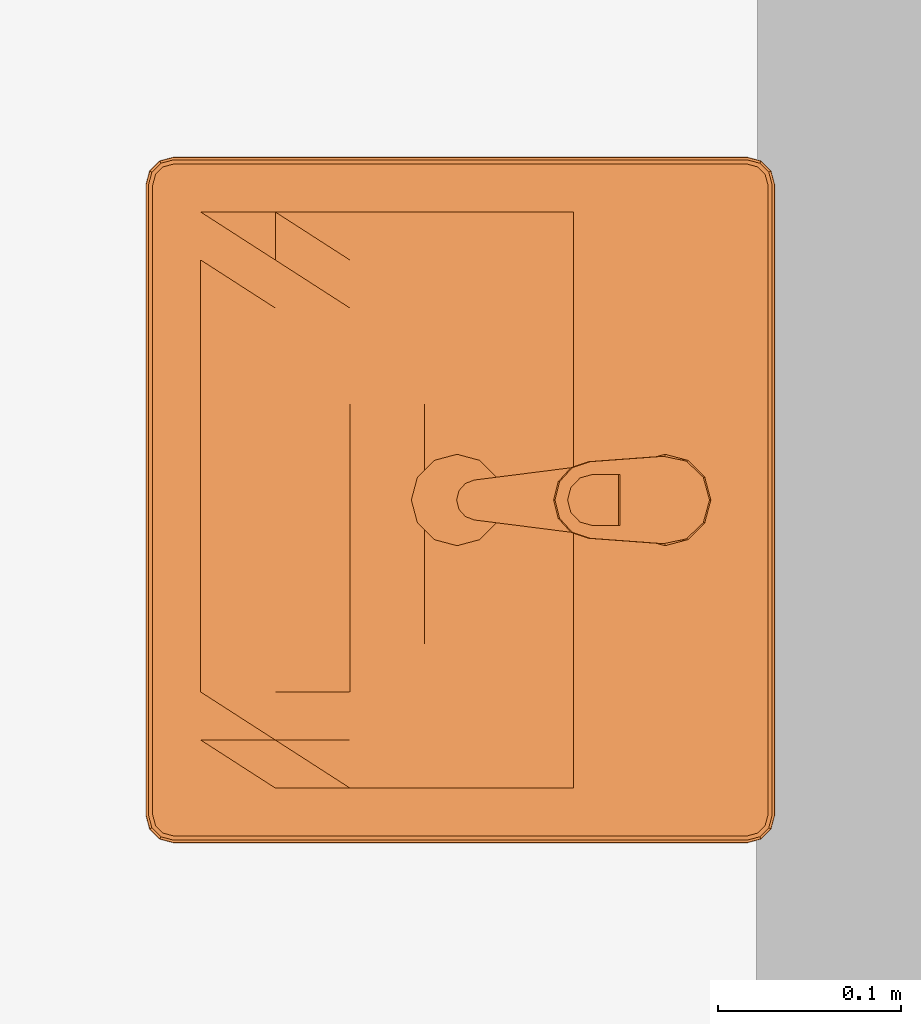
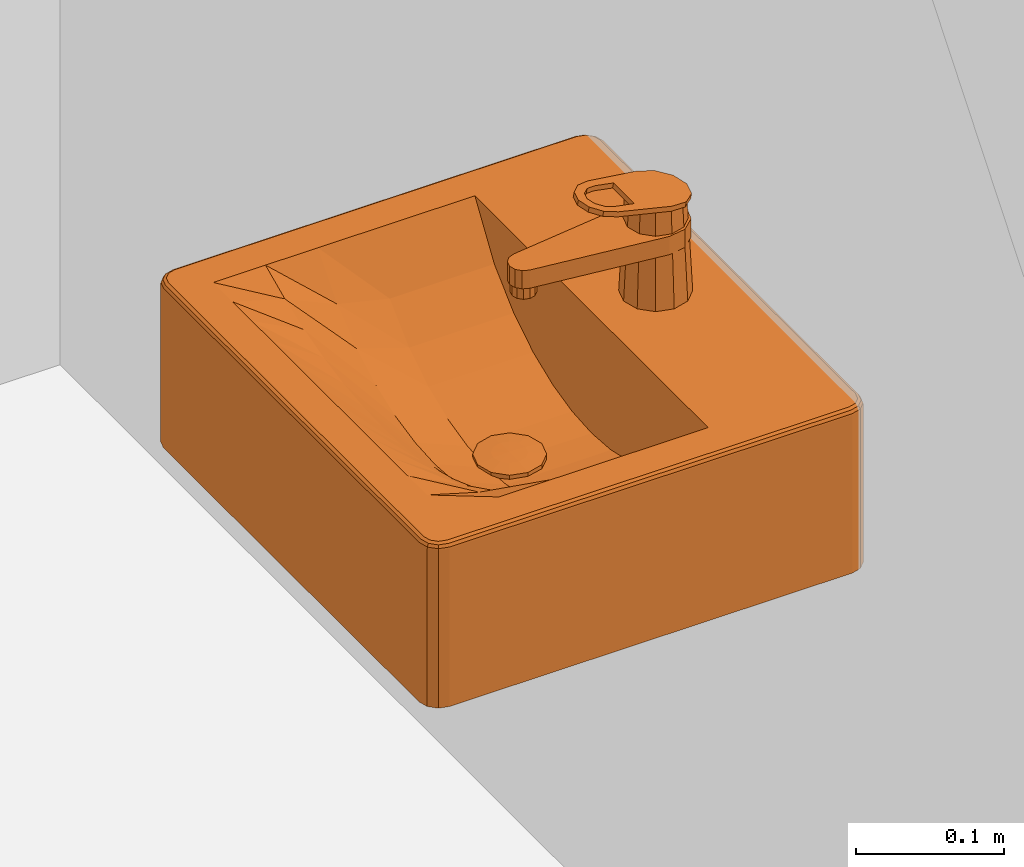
# One storey, part 189 of 196: 1 proxy.
"""IFC2X3 building model written with IfcOpenShell, lengths in metres."""

from ifc_helpers import new_model, entity, si_unit, converted_unit, derived_unit, money_unit, direction, frame, origin_with_axes, place, context, subcontext, project, spatial, open_shell, faceted_brep, surface_model, source, transform, mapped, type_object, element, save


model = new_model("IFC2X3")

# Units and contexts
model_context = context("Model", 3, precision=1e-05, world=origin_with_axes(), true_north=direction((0.0, 1.0)))
body_context = subcontext(model_context, "Body", "Model", "MODEL_VIEW")
ifc_project = project(units=[si_unit("LENGTHUNIT", "METRE"), si_unit("AREAUNIT", "SQUARE_METRE"), si_unit("VOLUMEUNIT", "CUBIC_METRE"), converted_unit("PLANEANGLEUNIT", "DEGREE", entity("IfcPlaneAngleMeasure", 0.0174532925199), si_unit("PLANEANGLEUNIT", "RADIAN"), dimensions=[0, 0, 0, 0, 0, 0, 0]), money_unit("EUR"), converted_unit("TIMEUNIT", "Year", entity("IfcTimeMeasure", 31556926.0), si_unit("TIMEUNIT", "SECOND"), dimensions=[0, 0, 1, 0, 0, 0, 0]), si_unit("MASSUNIT", "GRAM", prefix="KILO"), si_unit("THERMODYNAMICTEMPERATUREUNIT", "DEGREE_CELSIUS"), si_unit("LUMINOUSINTENSITYUNIT", "LUMEN"), si_unit("ENERGYUNIT", "JOULE", prefix="MEGA"), derived_unit("THERMALCONDUCTANCEUNIT", [(si_unit("POWERUNIT", "WATT"), 1), (si_unit("LENGTHUNIT", "METRE"), -1), (si_unit("THERMODYNAMICTEMPERATUREUNIT", "KELVIN"), -1)]), derived_unit("SPECIFICHEATCAPACITYUNIT", [(si_unit("ENERGYUNIT", "JOULE"), 1), (si_unit("MASSUNIT", "GRAM", prefix="KILO"), -1), (si_unit("THERMODYNAMICTEMPERATUREUNIT", "KELVIN"), -1)]), derived_unit("MASSDENSITYUNIT", [(si_unit("MASSUNIT", "GRAM", prefix="KILO"), 1), (si_unit("VOLUMEUNIT", "CUBIC_METRE"), -1)])], contexts=[model_context])

# Site, building, storey
site_placement = place(None, origin_with_axes())
site = spatial("IfcSite", under=ifc_project, at=site_placement, Name="Gelände", CompositionType="ELEMENT")
building_placement = place(site_placement, origin_with_axes())
building = spatial("IfcBuilding", under=site, at=building_placement, Name="Gebäude", CompositionType="ELEMENT")
storey_placement = place(building_placement, frame((0.0, 0.0, -3.0), z_axis=(0.0, 0.0, 1.0), x_axis=(1.0, 0.0, 0.0)))
storey = spatial("IfcBuildingStorey", under=building, at=storey_placement, Name="KELLERGESCHOSS", CompositionType="ELEMENT", Elevation=-3.0)

# Proxy
building_element_proxy_type = type_object("IfcBuildingElementProxyType", Name="Waschbecken 01 25", PredefinedType="NOTDEFINED")
shared_shape = source(origin_with_axes(), body_context, "Body", "SurfaceModel", [
    faceted_brep([(0.1725, -0.344011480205, 0.865), (-0.1725, -0.344011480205, 0.865), (-0.18, -0.342001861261, 0.865), (-0.185490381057, -0.336511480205, 0.865), (-0.1875, -0.329011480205, 0.865), (-0.1875, -0.015, 0.865), (-0.185490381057, -0.0075, 0.865), (-0.18, -0.00200961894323, 0.865), (-0.1725, 0.0, 0.865), (0.1725, 0.0, 0.865), (0.18, -0.00200961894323, 0.865), (0.185490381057, -0.0075, 0.865), (0.1875, -0.015, 0.865), (0.1875, -0.329011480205, 0.865), (0.185490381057, -0.336511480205, 0.865), (0.18, -0.342001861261, 0.865), (-0.1575, -0.314011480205, 0.865), (0.1575, -0.314011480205, 0.865), (0.1575, -0.11, 0.865), (-0.1575, -0.11, 0.865), (0.172499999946, -0.344011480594, 0.995), (-0.172499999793, -0.344011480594, 0.995), (-0.180000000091, -0.342001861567, 0.995), (-0.185490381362, -0.336511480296, 0.995), (-0.18750000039, -0.329011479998, 0.995), (-0.18750000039, -0.0150000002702, 0.995), (-0.185490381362, -0.00749999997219, 0.995), (-0.180000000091, -0.00200961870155, 0.995), (-0.172499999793, 3.25829641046e-10, 0.995), (0.172499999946, 3.25829641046e-10, 0.995), (0.180000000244, -0.00200961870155, 0.995), (0.185490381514, -0.00749999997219, 0.995), (0.18749999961, -0.0150000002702, 0.995), (0.18749999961, -0.329011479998, 0.995), (0.185490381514, -0.336511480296, 0.995), (0.180000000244, -0.342001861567, 0.995), (-0.1575, -0.314011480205, 0.999999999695), (0.1575, -0.314011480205, 0.999999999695), (0.1575, -0.11, 0.999999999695), (-0.1575, -0.11, 0.999999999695), (0.172477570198, -0.343841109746, 0.996294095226), (-0.172477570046, -0.343841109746, 0.996294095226), (-0.179911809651, -0.341849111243, 0.996294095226), (-0.185337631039, -0.336423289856, 0.996294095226), (-0.187329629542, -0.32898905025, 0.996294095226), (-0.187329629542, -0.0150224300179, 0.996294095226), (-0.185337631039, -0.0075881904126, 0.996294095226), (-0.179911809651, -0.00216236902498, 0.996294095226), (-0.172477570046, -0.000170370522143, 0.996294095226), (0.172477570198, -0.000170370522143, 0.996294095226), (0.179911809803, -0.00216236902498, 0.996294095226), (0.185337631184, -0.00758819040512, 0.996294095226), (0.187329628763, -0.0150224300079, 0.996294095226), (0.187329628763, -0.32898905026, 0.996294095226), (0.185337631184, -0.336423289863, 0.996294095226), (0.179911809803, -0.341849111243, 0.996294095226), (-0.17184173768, -0.00499999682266, 0.999999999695), (-0.177411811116, -0.00649249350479, 0.999999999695), (-0.181007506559, -0.0100881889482, 0.999999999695), (-0.182500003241, -0.0156582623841, 0.999999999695), (-0.182500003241, -0.328353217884, 0.999999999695), (-0.181007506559, -0.33392329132, 0.999999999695), (-0.177411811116, -0.337518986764, 0.999999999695), (-0.17184173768, -0.339011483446, 0.999999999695), (0.171841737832, -0.339011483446, 0.999999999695), (0.177411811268, -0.337518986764, 0.999999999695), (0.181007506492, -0.33392329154, 0.999999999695), (0.182500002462, -0.328353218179, 0.999999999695), (0.182500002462, -0.0156582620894, 0.999999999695), (0.181007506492, -0.0100881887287, 0.999999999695), (0.177411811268, -0.00649249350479, 0.999999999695), (0.171841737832, -0.00499999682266, 0.999999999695), (0.172307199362, -0.342547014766, 0.998535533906), (-0.172307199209, -0.342547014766, 0.998535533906), (-0.179241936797, -0.340688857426, 0.998535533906), (-0.184177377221, -0.335753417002, 0.998535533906), (-0.186035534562, -0.328818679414, 0.998535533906), (-0.186035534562, -0.0151928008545, 0.998535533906), (-0.184177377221, -0.00825806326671, 0.998535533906), (-0.179241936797, -0.0033226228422, 0.998535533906), (-0.172307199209, -0.00146446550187, 0.998535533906), (0.172307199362, -0.00146446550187, 0.998535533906), (0.179241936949, -0.0033226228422, 0.998535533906), (0.184177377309, -0.00825806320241, 0.998535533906), (0.186035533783, -0.0151928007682, 0.998535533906), (0.186035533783, -0.3288186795, 0.998535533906), (0.184177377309, -0.335753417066, 0.998535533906), (0.179241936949, -0.340688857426, 0.998535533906), (-0.178081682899, -0.00533224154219, 0.999829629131), (-0.172012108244, -0.0037059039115, 0.999829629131), (-0.182167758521, -0.00941831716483, 0.999829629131), (-0.183794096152, -0.0154878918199, 0.999829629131), (-0.183794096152, -0.328523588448, 0.999829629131), (-0.182167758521, -0.334593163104, 0.999829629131), (-0.178081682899, -0.338679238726, 0.999829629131), (-0.172012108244, -0.340305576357, 0.999829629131), (0.172012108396, -0.340305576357, 0.999829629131), (0.178081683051, -0.338679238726, 0.999829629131), (0.182167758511, -0.334593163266, 0.999829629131), (0.183794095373, -0.328523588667, 0.999829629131), (0.183794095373, -0.0154878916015, 0.999829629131), (0.182167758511, -0.00941831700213, 0.999829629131), (0.178081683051, -0.00533224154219, 0.999829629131), (0.172012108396, -0.0037059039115, 0.999829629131)], [[[0, 1, 2, 3, 4, 5, 6, 7, 8, 9, 10, 11, 12, 13, 14, 15], [16, 17, 18, 19]], [[0, 20, 21, 1]], [[1, 21, 22, 2]], [[2, 22, 23, 3]], [[3, 23, 24, 4]], [[4, 24, 25, 5]], [[5, 25, 26, 6]], [[6, 26, 27, 7]], [[7, 27, 28, 8]], [[8, 28, 29, 9]], [[9, 29, 30, 10]], [[10, 30, 31, 11]], [[11, 31, 32, 12]], [[12, 32, 33, 13]], [[13, 33, 34, 14]], [[14, 34, 35, 15]], [[15, 35, 20, 0]], [[36, 37, 17, 16]], [[37, 38, 18, 17]], [[38, 39, 19, 18]], [[39, 36, 16, 19]], [[20, 40, 41, 21]], [[21, 41, 42, 22]], [[22, 42, 43, 23]], [[23, 43, 44, 24]], [[24, 44, 45, 25]], [[25, 45, 46, 26]], [[26, 46, 47, 27]], [[27, 47, 48, 28]], [[28, 48, 49, 29]], [[29, 49, 50, 30]], [[30, 50, 51, 31]], [[31, 51, 52, 32]], [[32, 52, 53, 33]], [[33, 53, 54, 34]], [[34, 54, 55, 35]], [[35, 55, 40, 20]], [[56, 57, 58, 59, 60, 61, 62, 63, 64, 65, 66, 67, 68, 69, 70, 71], [36, 39, 38, 37]], [[40, 72, 73, 41]], [[41, 73, 74, 42]], [[42, 74, 75, 43]], [[43, 75, 76, 44]], [[44, 76, 77, 45]], [[45, 77, 78, 46]], [[46, 78, 79, 47]], [[47, 79, 80, 48]], [[48, 80, 81, 49]], [[49, 81, 82, 50]], [[50, 82, 83, 51]], [[51, 83, 84, 52]], [[52, 84, 85, 53]], [[53, 85, 86, 54]], [[54, 86, 87, 55]], [[55, 87, 72, 40]], [[88, 57, 56, 89]], [[90, 58, 57, 88]], [[91, 59, 58, 90]], [[92, 60, 59, 91]], [[93, 61, 60, 92]], [[94, 62, 61, 93]], [[95, 63, 62, 94]], [[96, 64, 63, 95]], [[97, 65, 64, 96]], [[98, 66, 65, 97]], [[99, 67, 66, 98]], [[100, 68, 67, 99]], [[101, 69, 68, 100]], [[102, 70, 69, 101]], [[103, 71, 70, 102]], [[89, 56, 71, 103]], [[72, 96, 95, 73]], [[73, 95, 94, 74]], [[74, 94, 93, 75]], [[75, 93, 92, 76]], [[76, 92, 91, 77]], [[77, 91, 90, 78]], [[78, 90, 88, 79]], [[79, 88, 89, 80]], [[80, 89, 103, 81]], [[81, 103, 102, 82]], [[82, 102, 101, 83]], [[83, 101, 100, 84]], [[84, 100, 99, 85]], [[85, 99, 98, 86]], [[86, 98, 97, 87]], [[87, 97, 96, 72]]]),
    faceted_brep([(-0.1575, -0.314011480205, 0.865), (-0.1575, -0.11, 0.865), (0.1575, -0.11, 0.865), (0.1575, -0.314011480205, 0.865), (0.0125, -0.195465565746, 0.865), (0.0216506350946, -0.186314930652, 0.865), (0.025, -0.173814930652, 0.865), (0.0216506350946, -0.161314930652, 0.865), (0.0125, -0.152164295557, 0.865), (0.0, -0.148814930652, 0.865), (-0.0125, -0.152164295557, 0.865), (-0.0216506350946, -0.161314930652, 0.865), (-0.025, -0.173814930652, 0.865), (-0.0216506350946, -0.186314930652, 0.865), (-0.0125, -0.195465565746, 0.865), (0.0, -0.198814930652, 0.865), (-0.1575, -0.232406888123, 1.0), (-0.1575, -0.191604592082, 1.0), (-0.1575, -0.150802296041, 1.0), (-0.1575, -0.11, 1.0), (-0.1575, -0.314011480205, 1.0), (-0.1575, -0.273209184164, 1.0), (0.07875, -0.11, 0.918836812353), (0.105, -0.11, 0.935244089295), (0.13125, -0.11, 0.959749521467), (0.1575, -0.11, 1.0), (-0.13125, -0.11, 0.959749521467), (-0.105, -0.11, 0.935244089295), (-0.07875, -0.11, 0.918836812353), (-0.0525, -0.11, 0.908107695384), (-0.02625, -0.11, 0.901991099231), (0.0, -0.11, 0.9), (0.02625, -0.11, 0.901991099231), (0.0525, -0.11, 0.908107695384), (0.1575, -0.191604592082, 1.0), (0.1575, -0.232406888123, 1.0), (0.1575, -0.273209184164, 1.0), (0.1575, -0.314011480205, 1.0), (0.1575, -0.150802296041, 1.0), (-0.07875, -0.314011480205, 1.0), (-0.105, -0.314011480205, 1.0), (-0.13125, -0.314011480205, 1.0), (0.13125, -0.314011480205, 1.0), (0.105, -0.314011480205, 1.0), (0.07875, -0.314011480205, 1.0), (0.0525, -0.314011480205, 1.0), (0.02625, -0.314011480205, 1.0), (0.0, -0.314011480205, 1.0), (-0.02625, -0.314011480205, 1.0), (-0.0525, -0.314011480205, 1.0), (0.0163609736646, -0.191604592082, 0.901241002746), (0.0216506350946, -0.186314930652, 0.901642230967), (0.0125, -0.195465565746, 0.902592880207), (0.025, -0.173814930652, 0.901896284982), (0.0216506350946, -0.161314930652, 0.901642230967), (0.0125, -0.152164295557, 0.900948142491), (0.0074169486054, -0.150802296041, 0.90056258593), (0.0, -0.148814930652, 0.9), (-0.0074169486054, -0.150802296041, 0.90056258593), (-0.0125, -0.152164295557, 0.900948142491), (-0.0216506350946, -0.161314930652, 0.901642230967), (-0.025, -0.173814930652, 0.901896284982), (-0.0216506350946, -0.186314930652, 0.901642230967), (-0.0163609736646, -0.191604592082, 0.901241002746), (-0.0125, -0.195465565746, 0.902575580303), (-0.0039566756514, -0.197754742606, 0.902892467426), (0.0, -0.198814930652, 0.903071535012), (-0.13125, -0.191604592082, 0.959749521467), (-0.13125, -0.150802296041, 0.959749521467), (-0.13125, -0.273209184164, 0.988021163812), (-0.13125, -0.232406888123, 0.969458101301), (0.105, -0.150802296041, 0.935244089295), (0.07875, -0.150802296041, 0.918836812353), (0.13125, -0.150802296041, 0.959749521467), (-0.105, -0.150802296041, 0.935244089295), (-0.07875, -0.150802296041, 0.918836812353), (-0.0525, -0.150802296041, 0.908107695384), (-0.02625, -0.150802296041, 0.901991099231), (0.02625, -0.150802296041, 0.901991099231), (0.0525, -0.150802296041, 0.908107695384), (0.13125, -0.232406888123, 0.969458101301), (0.13125, -0.273209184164, 0.988021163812), (0.13125, -0.191604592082, 0.959749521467), (-0.07875, -0.273209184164, 0.971352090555), (-0.105, -0.273209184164, 0.978541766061), (0.105, -0.273209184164, 0.978541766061), (0.07875, -0.273209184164, 0.971352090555), (0.0525, -0.273209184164, 0.966308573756), (0.02625, -0.273209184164, 0.963317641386), (0.0, -0.273209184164, 0.962326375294), (-0.02625, -0.273209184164, 0.963317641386), (-0.0525, -0.273209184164, 0.966308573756), (0.02625, -0.191604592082, 0.901991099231), (0.0, -0.232406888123, 0.917381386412), (-0.02625, -0.191604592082, 0.901991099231), (-0.02625, -0.232406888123, 0.919189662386), (-0.105, -0.191604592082, 0.935244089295), (0.105, -0.191604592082, 0.935244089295), (0.07875, -0.191604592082, 0.918836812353), (-0.07875, -0.191604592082, 0.918836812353), (-0.0525, -0.191604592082, 0.908107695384), (0.0525, -0.191604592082, 0.908107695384), (0.02625, -0.232406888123, 0.919189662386), (-0.0525, -0.232406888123, 0.924721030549), (-0.105, -0.232406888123, 0.948746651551), (0.07875, -0.232406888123, 0.934329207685), (0.105, -0.232406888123, 0.948746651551), (-0.07875, -0.232406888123, 0.934329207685), (0.0525, -0.232406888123, 0.924721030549)], [[[0, 1, 2, 3], [4, 5, 6, 7, 8, 9, 10, 11, 12, 13, 14, 15]], [[16, 17, 18, 19, 1, 0, 20, 21]], [[22, 23, 24, 25, 2, 1, 19, 26, 27, 28, 29, 30, 31, 32, 33]], [[34, 35, 36, 37, 3, 2, 25, 38]], [[39, 40, 41, 20, 0, 3, 37, 42, 43, 44, 45, 46, 47, 48, 49]], [[50, 51, 5, 4, 52]], [[51, 53, 6, 5]], [[53, 54, 7, 6]], [[54, 55, 8, 7]], [[55, 56, 57, 9, 8]], [[57, 58, 59, 10, 9]], [[59, 60, 11, 10]], [[60, 61, 12, 11]], [[61, 62, 13, 12]], [[63, 64, 14, 13, 62]], [[65, 66, 15, 14, 64]], [[66, 52, 4, 15]], [[16, 67, 17]], [[67, 68, 18, 17]], [[68, 26, 19, 18]], [[20, 69, 21]], [[21, 70, 16]], [[71, 23, 22, 72]], [[73, 24, 23, 71]], [[38, 25, 24, 73]], [[74, 27, 26, 68]], [[75, 28, 27, 74]], [[76, 29, 28, 75]], [[77, 30, 29, 76]], [[58, 57, 31, 30, 77]], [[57, 56, 78, 32, 31]], [[79, 33, 32, 78]], [[72, 22, 33, 79]], [[80, 35, 34]], [[81, 36, 35]], [[42, 37, 36]], [[34, 38, 73, 82]], [[40, 39, 83]], [[41, 40, 84]], [[20, 41, 69]], [[43, 42, 81]], [[44, 43, 85]], [[45, 44, 86]], [[46, 45, 87]], [[47, 46, 88]], [[48, 47, 89]], [[49, 48, 90]], [[39, 49, 91]], [[55, 54, 53, 51, 50, 92, 78, 56]], [[52, 66, 93, 92, 50]], [[59, 58, 77, 94, 63, 62, 61, 60]], [[64, 63, 94, 95, 65]], [[66, 65, 95, 93]], [[16, 70, 67]], [[96, 74, 68, 67]], [[21, 69, 70]], [[97, 71, 72, 98]], [[82, 73, 71, 97]], [[99, 75, 74, 96]], [[100, 76, 75, 99]], [[94, 77, 76, 100]], [[101, 79, 78, 92]], [[98, 72, 79, 101]], [[81, 35, 80]], [[80, 34, 82]], [[42, 36, 81]], [[39, 91, 83]], [[40, 83, 84]], [[41, 84, 69]], [[43, 81, 85]], [[44, 85, 86]], [[45, 86, 87]], [[46, 87, 88]], [[47, 88, 89]], [[48, 89, 90]], [[49, 90, 91]], [[93, 102, 92]], [[103, 95, 94]], [[90, 93, 95]], [[70, 96, 67]], [[69, 104, 70]], [[105, 97, 98]], [[106, 82, 97]], [[104, 99, 96]], [[107, 100, 99]], [[103, 94, 100]], [[102, 101, 92]], [[108, 98, 101]], [[85, 81, 80]], [[106, 80, 82]], [[83, 91, 103]], [[84, 83, 107]], [[69, 84, 104]], [[86, 85, 106]], [[87, 86, 105]], [[88, 87, 108]], [[89, 88, 102]], [[90, 89, 93]], [[91, 90, 95]], [[89, 102, 93]], [[91, 95, 103]], [[70, 104, 96]], [[105, 106, 97]], [[108, 105, 98]], [[104, 107, 99]], [[107, 103, 100]], [[102, 108, 101]], [[85, 80, 106]], [[83, 103, 107]], [[84, 107, 104]], [[86, 106, 105]], [[87, 105, 108]], [[88, 108, 102]]]),
    faceted_brep([(0.0216506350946, -0.186314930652, 0.9), (0.0125, -0.195465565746, 0.9), (0.0, -0.198814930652, 0.9), (-0.0125, -0.195465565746, 0.9), (-0.0216506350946, -0.186314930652, 0.9), (-0.025, -0.173814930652, 0.9), (-0.0216506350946, -0.161314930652, 0.9), (-0.0125, -0.152164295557, 0.9), (0.0, -0.148814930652, 0.9), (0.0125, -0.152164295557, 0.9), (0.0216506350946, -0.161314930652, 0.9), (0.025, -0.173814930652, 0.9), (0.0216506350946, -0.186314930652, 0.905), (0.0125, -0.195465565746, 0.905), (0.0, -0.198814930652, 0.905), (-0.0125, -0.195465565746, 0.905), (-0.0216506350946, -0.186314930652, 0.905), (-0.025, -0.173814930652, 0.905), (-0.0216506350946, -0.161314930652, 0.905), (-0.0125, -0.152164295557, 0.905), (0.0, -0.148814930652, 0.905), (0.0125, -0.152164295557, 0.905), (0.0216506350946, -0.161314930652, 0.905), (0.025, -0.173814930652, 0.905)], [[[0, 1, 2, 3, 4, 5, 6, 7, 8, 9, 10, 11]], [[1, 0, 12, 13]], [[2, 1, 13, 14]], [[3, 2, 14, 15]], [[4, 3, 15, 16]], [[5, 4, 16, 17]], [[6, 5, 17, 18]], [[7, 6, 18, 19]], [[8, 7, 19, 20]], [[9, 8, 20, 21]], [[10, 9, 21, 22]], [[11, 10, 22, 23]], [[0, 11, 23, 12]], [[12, 23, 22, 21, 20, 19, 18, 17, 16, 15, 14, 13]]]),
    surface_model("IfcShellBasedSurfaceModel", [(0.0, -0.173814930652, 0.907), (0.0, -0.16119302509, 0.90649757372), (-0.00631095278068, -0.162884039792, 0.90649757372), (0.00631095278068, -0.162884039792, 0.90649757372), (0.0, -0.148814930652, 0.905), (-0.0125, -0.152164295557, 0.905), (-0.0109308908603, -0.167503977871, 0.90649757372), (0.0109308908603, -0.167503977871, 0.90649757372), (0.0125, -0.152164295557, 0.905), (-0.0216506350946, -0.161314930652, 0.905), (-0.0126219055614, -0.173814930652, 0.90649757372), (0.0126219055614, -0.173814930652, 0.90649757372), (0.0216506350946, -0.161314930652, 0.905), (-0.025, -0.173814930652, 0.905), (-0.0109308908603, -0.180125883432, 0.90649757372), (0.0109308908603, -0.180125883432, 0.90649757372), (0.025, -0.173814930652, 0.905), (-0.0216506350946, -0.186314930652, 0.905), (-0.00631095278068, -0.184745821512, 0.90649757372), (0.00631095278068, -0.184745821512, 0.90649757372), (0.0216506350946, -0.186314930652, 0.905), (-0.0125, -0.195465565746, 0.905), (0.0, -0.186436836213, 0.90649757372), (0.0125, -0.195465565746, 0.905), (0.0, -0.198814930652, 0.905)], [open_shell([[[0, 1, 2]], [[0, 3, 1]], [[2, 1, 4, 5]], [[0, 2, 6]], [[0, 7, 3]], [[1, 3, 8, 4]], [[6, 2, 5, 9]], [[0, 6, 10]], [[0, 11, 7]], [[3, 7, 12, 8]], [[10, 6, 9, 13]], [[0, 10, 14]], [[0, 15, 11]], [[7, 11, 16, 12]], [[14, 10, 13, 17]], [[0, 14, 18]], [[0, 19, 15]], [[11, 15, 20, 16]], [[18, 14, 17, 21]], [[0, 18, 22]], [[0, 22, 19]], [[15, 19, 23, 20]], [[22, 18, 21, 24]], [[19, 22, 24, 23]]])]),
    faceted_brep([(0.0125, -0.0383493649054, 1.0), (0.0, -0.035, 1.0), (0.0, -0.0387980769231, 1.07596153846), (0.0105873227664, -0.0416622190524, 1.07650708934), (0.0216506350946, -0.0475, 1.0), (0.025, -0.06, 1.0), (0.0216506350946, -0.0725, 1.0), (0.0125, -0.0816506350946, 1.0), (0.0, -0.085, 1.0), (-0.0125, -0.0816506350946, 1.0), (-0.0216506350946, -0.0725, 1.0), (-0.025, -0.06, 1.0), (-0.0216506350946, -0.0475, 1.0), (-0.0125, -0.0383493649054, 1.0), (-0.0105873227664, -0.0416622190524, 1.07650708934), (-0.0182735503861, -0.0494497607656, 1.07799043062), (-0.021, -0.06, 1.08), (-0.0181003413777, -0.0704502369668, 1.08199052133), (-0.0104141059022, -0.078037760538, 1.08343576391), (0.0, -0.0808018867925, 1.08396226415), (0.0104141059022, -0.078037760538, 1.08343576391), (0.0181003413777, -0.0704502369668, 1.08199052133), (0.021, -0.06, 1.08), (0.0182735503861, -0.0494497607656, 1.07799043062)], [[[0, 1, 2, 3]], [[0, 4, 5, 6, 7, 8, 9, 10, 11, 12, 13, 1]], [[1, 13, 14, 2]], [[3, 2, 14, 15, 16, 17, 18, 19, 20, 21, 22, 23]], [[4, 0, 3, 23]], [[5, 4, 23, 22]], [[6, 5, 22, 21]], [[7, 6, 21, 20]], [[8, 7, 20, 19]], [[9, 8, 19, 18]], [[10, 9, 18, 17]], [[11, 10, 17, 16]], [[12, 11, 16, 15]], [[13, 12, 15, 14]]]),
    faceted_brep([(0.009, -0.163, 1.035), (0.00779422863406, -0.1585, 1.035), (0.00779422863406, -0.1585, 1.045), (0.009, -0.163, 1.045), (0.00779422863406, -0.1675, 1.035), (0.0045, -0.170794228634, 1.035), (0.0, -0.172, 1.035), (-0.0045, -0.170794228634, 1.035), (-0.00779422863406, -0.1675, 1.035), (-0.009, -0.163, 1.035), (-0.00779422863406, -0.1585, 1.035), (-0.0045, -0.155205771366, 1.035), (0.0, -0.154, 1.035), (0.0045, -0.155205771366, 1.035), (0.0045, -0.155205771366, 1.045), (0.0, -0.154, 1.045), (-0.0045, -0.155205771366, 1.045), (-0.00779422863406, -0.1585, 1.045), (-0.009, -0.163, 1.045), (-0.00779422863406, -0.1675, 1.045), (-0.0045, -0.170794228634, 1.045), (0.0, -0.172, 1.045), (0.0045, -0.170794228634, 1.045), (0.00779422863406, -0.1675, 1.045)], [[[0, 1, 2, 3]], [[0, 4, 5, 6, 7, 8, 9, 10, 11, 12, 13, 1]], [[1, 13, 14, 2]], [[3, 2, 14, 15, 16, 17, 18, 19, 20, 21, 22, 23]], [[4, 0, 3, 23]], [[5, 4, 23, 22]], [[6, 5, 22, 21]], [[7, 6, 21, 20]], [[8, 7, 20, 19]], [[9, 8, 19, 18]], [[10, 9, 18, 17]], [[11, 10, 17, 16]], [[12, 11, 16, 15]], [[13, 12, 15, 14]]]),
    faceted_brep([(-0.0128717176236, -0.0397436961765, 1.06), (-0.021727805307, -0.0498067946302, 1.06), (-0.0238054, -0.0630499, 1.06), (-0.010911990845, -0.164388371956, 1.06), (-0.00902887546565, -0.169283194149, 1.06), (-0.00509332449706, -0.172749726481, 1.06), (3.62679860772e-08, -0.17399996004, 1.06), (0.00509338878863, -0.172749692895, 1.06), (0.00902891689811, -0.169283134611, 1.06), (0.010912, -0.1643883, 1.06), (0.0238053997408, -0.0630499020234, 1.06), (0.0217278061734, -0.049806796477, 1.06), (0.0128717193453, -0.0397436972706, 1.06), (1.01998896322e-09, -0.036000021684, 1.06), (0.011, -0.0409474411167, 1.06), (0.0190525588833, -0.049, 1.06), (0.022, -0.06, 1.06), (0.0190525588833, -0.071, 1.06), (0.011, -0.0790525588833, 1.06), (0.0, -0.082, 1.06), (-0.011, -0.0790525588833, 1.06), (-0.0190525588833, -0.071, 1.06), (-0.022, -0.06, 1.06), (-0.0190525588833, -0.049, 1.06), (-0.011, -0.0409474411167, 1.06), (0.0, -0.038, 1.06), (-0.021727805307, -0.0498067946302, 1.045), (-0.0128717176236, -0.0397436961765, 1.045), (-0.0238054, -0.0630499, 1.045), (-0.010911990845, -0.164388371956, 1.045), (-0.00902887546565, -0.169283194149, 1.045), (-0.00509332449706, -0.172749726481, 1.045), (3.62679860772e-08, -0.17399996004, 1.045), (0.00509338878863, -0.172749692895, 1.045), (0.00902891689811, -0.169283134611, 1.045), (0.010912, -0.1643883, 1.045), (0.0238053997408, -0.0630499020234, 1.045), (0.0217278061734, -0.049806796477, 1.045), (0.0128717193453, -0.0397436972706, 1.045), (1.01998896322e-09, -0.036000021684, 1.045), (0.011375, -0.0402979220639, 1.045), (0.0197020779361, -0.048625, 1.045), (0.02275, -0.06, 1.045), (0.0197020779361, -0.071375, 1.045), (0.011375, -0.0797020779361, 1.045), (0.0, -0.08275, 1.045), (-0.011375, -0.0797020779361, 1.045), (-0.0197020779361, -0.071375, 1.045), (-0.02275, -0.06, 1.045), (-0.0197020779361, -0.048625, 1.045), (-0.011375, -0.0402979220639, 1.045), (0.0, -0.03725, 1.045)], [[[0, 1, 2, 3, 4, 5, 6, 7, 8, 9, 10, 11, 12, 13], [14, 15, 16, 17, 18, 19, 20, 21, 22, 23, 24, 25]], [[26, 1, 0, 27]], [[28, 2, 1, 26]], [[29, 3, 2, 28]], [[30, 4, 3, 29]], [[31, 5, 4, 30]], [[32, 6, 5, 31]], [[33, 7, 6, 32]], [[34, 8, 7, 33]], [[35, 9, 8, 34]], [[36, 10, 9, 35]], [[37, 11, 10, 36]], [[38, 12, 11, 37]], [[39, 13, 12, 38]], [[27, 0, 13, 39]], [[40, 41, 15, 14]], [[41, 42, 16, 15]], [[42, 43, 17, 16]], [[43, 44, 18, 17]], [[44, 45, 19, 18]], [[20, 19, 45, 46]], [[21, 20, 46, 47]], [[22, 21, 47, 48]], [[23, 22, 48, 49]], [[24, 23, 49, 50]], [[50, 51, 25, 24]], [[51, 40, 14, 25]], [[32, 31, 30, 29, 28, 26, 27, 39, 38, 37, 36, 35, 34, 33], [44, 43, 42, 41, 40, 51, 50, 49, 48, 47, 46, 45]]]),
    faceted_brep([(0.023893, -0.0616925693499, 1.08032239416), (0.0212964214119, -0.049225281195, 1.07794767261), (0.0212964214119, -0.0484768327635, 1.08187702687), (0.023893, -0.0609441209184, 1.08425174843), (0.0209459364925, -0.101836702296, 1.08796889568), (0.0176631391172, -0.111514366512, 1.08981226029), (0.0100614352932, -0.118463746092, 1.09113595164), (-4.42652908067e-07, -0.12098561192, 1.09161630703), (-0.0100622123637, -0.118463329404, 1.09113587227), (-0.0176636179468, -0.111513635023, 1.08981212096), (-0.020946, -0.101835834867, 1.08796873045), (-0.023893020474, -0.0616922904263, 1.08032234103), (-0.0212962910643, -0.0492250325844, 1.07794762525), (-0.0124716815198, -0.0399088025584, 1.07617310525), (1.42337785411e-07, -0.0364680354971, 1.07551772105), (0.0124719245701, -0.0399089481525, 1.07617313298), (0.014, -0.085540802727, 1.08486491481), (-0.014, -0.085540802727, 1.08486491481), (-0.014, -0.100356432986, 1.08768693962), (-0.012124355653, -0.107232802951, 1.08899672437), (-0.007, -0.112266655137, 1.08995555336), (0.0, -0.114109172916, 1.09030650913), (0.007, -0.112266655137, 1.08995555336), (0.012124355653, -0.107232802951, 1.08899672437), (0.014, -0.100356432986, 1.08768693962), (0.0124719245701, -0.0391604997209, 1.08010248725), (1.42337785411e-07, -0.0357195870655, 1.07944707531), (-0.0124716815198, -0.0391603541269, 1.08010245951), (-0.0212962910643, -0.0484765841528, 1.08187697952), (-0.023893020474, -0.0609438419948, 1.0842516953), (-0.020946, -0.101087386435, 1.09189808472), (-0.0176636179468, -0.110765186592, 1.09374147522), (-0.0100622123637, -0.117714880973, 1.09506522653), (-4.42652908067e-07, -0.120237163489, 1.0955456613), (0.0100614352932, -0.11771529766, 1.0950653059), (0.0176631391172, -0.11076591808, 1.09374161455), (0.0209459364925, -0.101088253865, 1.09189824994), (0.014, -0.0847923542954, 1.08879426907), (0.014, -0.0996079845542, 1.09161629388), (0.012124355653, -0.106484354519, 1.09292607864), (0.007, -0.111518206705, 1.09388490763), (0.0, -0.113360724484, 1.09423586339), (-0.007, -0.111518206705, 1.09388490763), (-0.012124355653, -0.106484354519, 1.09292607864), (-0.014, -0.0996079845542, 1.09161629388), (-0.014, -0.0847923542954, 1.08879426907)], [[[0, 1, 2, 3]], [[0, 4, 5, 6, 7, 8, 9, 10, 11, 12, 13, 14, 15, 1], [16, 17, 18, 19, 20, 21, 22, 23, 24]], [[1, 15, 25, 2]], [[3, 2, 25, 26, 27, 28, 29, 30, 31, 32, 33, 34, 35, 36], [37, 38, 39, 40, 41, 42, 43, 44, 45]], [[4, 0, 3, 36]], [[5, 4, 36, 35]], [[6, 5, 35, 34]], [[7, 6, 34, 33]], [[8, 7, 33, 32]], [[9, 8, 32, 31]], [[10, 9, 31, 30]], [[11, 10, 30, 29]], [[12, 11, 29, 28]], [[13, 12, 28, 27]], [[14, 13, 27, 26]], [[15, 14, 26, 25]], [[17, 16, 37, 45]], [[18, 17, 45, 44]], [[19, 18, 44, 43]], [[20, 19, 43, 42]], [[21, 20, 42, 41]], [[22, 21, 41, 40]], [[23, 22, 40, 39]], [[24, 23, 39, 38]], [[16, 24, 38, 37]]]),
])
proxy_placement = place(storey_placement, frame((21.0709008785, 24.9025232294, -0.3991145), z_axis=(0.0, 0.0, 1.0), x_axis=(0.0, -1.0, 0.0)))
element("IfcBuildingElementProxy", 1, at=proxy_placement, inside=storey, type_object=building_element_proxy_type, Name="Objekt-00219", context=body_context, shape_type="MappedRepresentation", body=[
    mapped(shared_shape, transform((0.0, 0.0, 0.0))),
])

save(model, "model.ifc")
